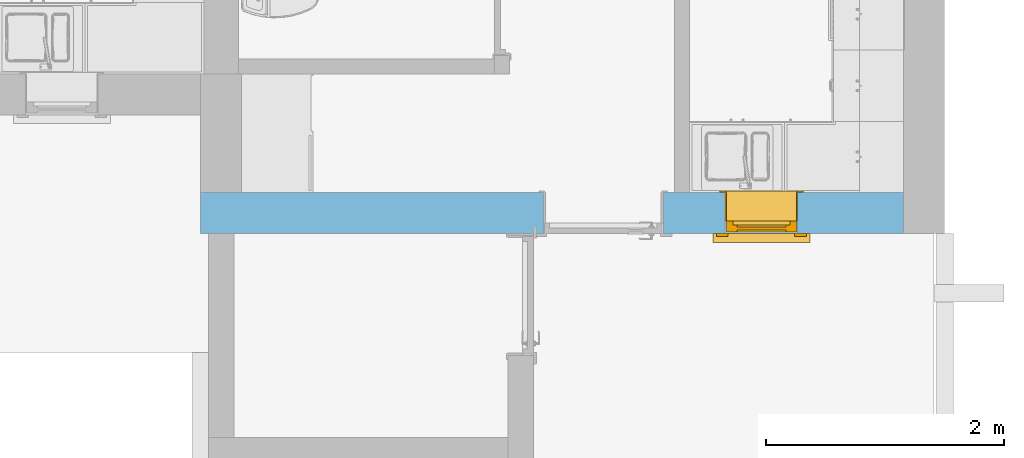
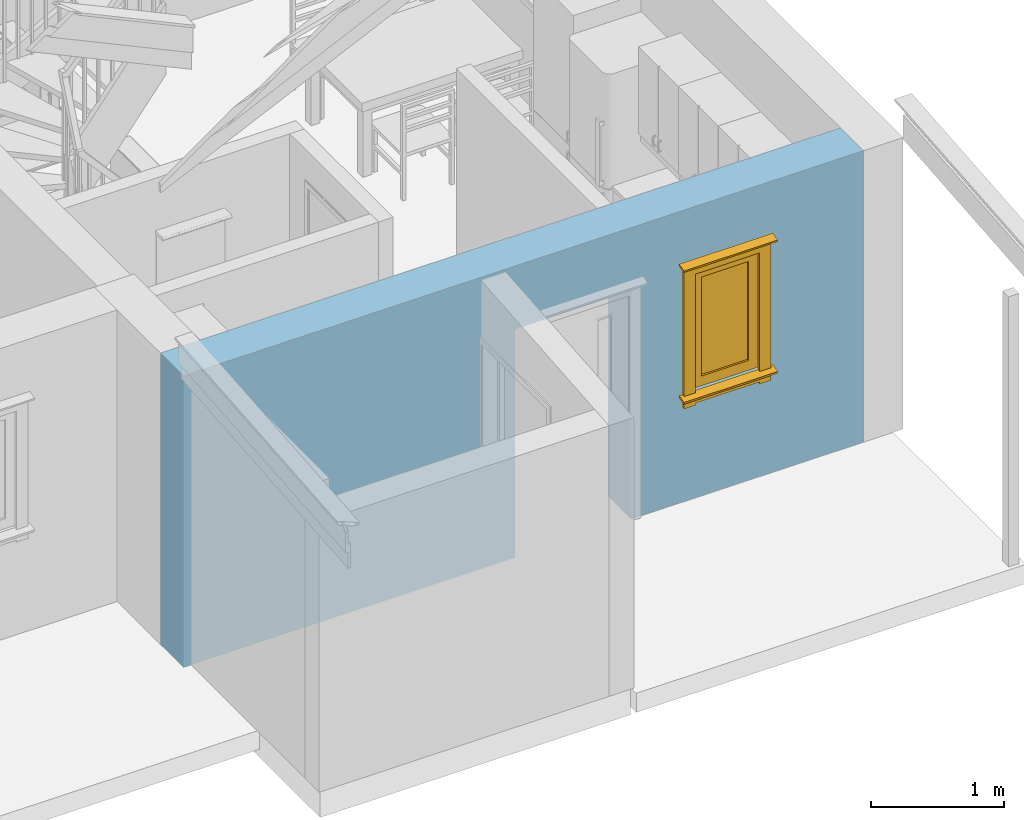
# One storey, part 21 of 65: 1 window, 2 openings, plus 1 element that does not belong to this part.
"""IFC2X3 building model written with IfcOpenShell, lengths in millimetres."""

import ifcopenshell
import ifcopenshell.guid

model = None  # the IFC model being written
_history = None  # IfcOwnerHistory: only IFC2X3 demands one
_inside = {}  # id of a spatial element -> (the spatial element, [elements in it])
_under = {}  # id of a project, library or spatial element -> (it, [spatial elements below it])
_declared = {}  # id of a project -> (the project, [libraries it declares])
_typed = {}  # id of a type object -> (the type object, [elements of that type])
_made_of = {}  # id of a material, layer set ... -> (it, [elements and type objects made of it])


def new_model(schema):
    """Start an empty IFC model of exactly this schema.

    Asked for "IFC4X3", IfcOpenShell would pick the latest addendum, in which some entities
    have other attributes; the version numbers below select the first issue.
    IFC2X3 requires an IfcOwnerHistory on every rooted entity: one is made here for all.
    """
    global model, _history
    if schema == "IFC4X3":
        model = ifcopenshell.file(schema_version=(4, 3, 0, 0))
    else:
        model = ifcopenshell.file(schema=schema)
    _inside.clear()
    _under.clear()
    _declared.clear()
    _typed.clear()
    _made_of.clear()
    _history = None
    if model.schema == "IFC2X3":
        org = make("IfcOrganization", Name="unknown")
        user = make(
            "IfcPersonAndOrganization",
            ThePerson=make("IfcPerson", FamilyName="unknown"),
            TheOrganization=org,
        )
        app = make(
            "IfcApplication",
            ApplicationDeveloper=org,
            Version="unknown",
            ApplicationFullName="unknown",
            ApplicationIdentifier="unknown",
        )
        _history = make(
            "IfcOwnerHistory",
            OwningUser=user,
            OwningApplication=app,
            ChangeAction="ADDED",
            CreationDate=0,
        )
    return model


def make(cls, **values):
    """One entity of the class cls with the attributes given. An attribute that is None is left unset."""
    return model.create_entity(
        cls, **{name: value for name, value in values.items() if value is not None}
    )


def entity(cls, *values):
    """Any entity or typed value of the class cls, its attributes in the order of the schema. None: left unset."""
    e = model.create_entity(cls)
    for i, value in enumerate(values):
        if value is not None:
            e[i] = value
    return e


def rooted(cls, **values):
    """An entity with a GlobalId (a new one), such as an element, a storey or a relation."""
    return make(cls, GlobalId=ifcopenshell.guid.new(), OwnerHistory=_history, **values)


def si_unit(unit_type, name, prefix=None):
    """IfcSIUnit, for example si_unit("LENGTHUNIT", "METRE", prefix="MILLI")."""
    return make("IfcSIUnit", UnitType=unit_type, Prefix=prefix, Name=name)


def converted_unit(unit_type, name, factor, base, dimensions=None, offset=None):
    """IfcConversionBasedUnit, such as the inch: factor (a typed value) times the base unit."""
    return make(
        "IfcConversionBasedUnit"
        if offset is None
        else "IfcConversionBasedUnitWithOffset",
        ConversionOffset=offset,
        Dimensions=None
        if dimensions is None
        else entity("IfcDimensionalExponents", *dimensions),
        UnitType=unit_type,
        Name=name,
        ConversionFactor=make(
            "IfcMeasureWithUnit", ValueComponent=factor, UnitComponent=base
        ),
    )


def assignment(units):
    """IfcUnitAssignment: the units of a project."""
    return None if units is None else make("IfcUnitAssignment", Units=units)


def point(xyz):
    """IfcCartesianPoint."""
    return None if xyz is None else make("IfcCartesianPoint", Coordinates=xyz)


def direction(xyz):
    """IfcDirection."""
    return None if xyz is None else make("IfcDirection", DirectionRatios=xyz)


def frame(location, z_axis=None, x_axis=None):
    """IfcAxis2Placement3D, a coordinate frame: its origin and axes. An axis left out is left unset."""
    return make(
        "IfcAxis2Placement3D",
        Location=point(location),
        Axis=direction(z_axis),
        RefDirection=direction(x_axis),
    )


def frame_2d(location, x_axis=None):
    """IfcAxis2Placement2D, a coordinate frame in the plane: its origin and x axis."""
    return make(
        "IfcAxis2Placement2D", Location=point(location), RefDirection=direction(x_axis)
    )


def origin():
    """The frame at (0, 0, 0) with its axes left unset."""
    return frame((0.0, 0.0, 0.0))


def place(relative_to, where):
    """IfcLocalPlacement: puts the frame where relative to a parent placement (None: the world)."""
    return make(
        "IfcLocalPlacement", PlacementRelTo=relative_to, RelativePlacement=where
    )


def context(
    kind, dimensions, precision=None, world=None, true_north=None, identifier=None
):
    """IfcGeometricRepresentationContext, for example the 3D "Model" context."""
    return make(
        "IfcGeometricRepresentationContext",
        ContextIdentifier=identifier,
        ContextType=kind,
        CoordinateSpaceDimension=dimensions,
        Precision=precision,
        WorldCoordinateSystem=world,
        TrueNorth=true_north,
    )


def subcontext(parent, identifier, kind, view, scale=None):
    """IfcGeometricRepresentationSubContext, for example "Body" below "Model"."""
    return make(
        "IfcGeometricRepresentationSubContext",
        ContextIdentifier=identifier,
        ContextType=kind,
        ParentContext=parent,
        TargetScale=scale,
        TargetView=view,
    )


def project(units=None, contexts=None):
    """IfcProject with its units and contexts."""
    return rooted(
        "IfcProject",
        Name="project",
        RepresentationContexts=contexts,
        UnitsInContext=assignment(units),
    )


def spatial(cls, under=None, at=None, **own):
    """A site, building, storey or space (cls), placed at a placement, below another one or the project."""
    s = rooted(cls, ObjectPlacement=at, **own)
    if under is not None:
        _under.setdefault(under.id(), (under, []))[1].append(s)
    return s


def profile(cls, at=None, kind="AREA", **sizes):
    """A parametric profile (cls). Its sizes go by their IFC names, for example OverallWidth=200.0."""
    return make(cls, ProfileType=kind, Position=at, **sizes)


def rectangle(**sizes):
    """IfcRectangleProfileDef."""
    return profile("IfcRectangleProfileDef", **sizes)


def extrude(swept, where, along, depth):
    """IfcExtrudedAreaSolid: the profile swept, set in the frame where, extruded along a direction by depth."""
    return make(
        "IfcExtrudedAreaSolid",
        SweptArea=swept,
        Position=where,
        ExtrudedDirection=direction(along),
        Depth=depth,
    )


def faces_of(points, faces, orient=None, outer=None):
    """IfcFace entities. A face is a list of loops; a loop is a list of indices into points, from 0.

    orient and outer hold one flag for each loop. By default every Orientation is true, the
    first loop of a face is its IfcFaceOuterBound and the others are IfcFaceBound.
    """
    made = []
    for i, loops in enumerate(faces):
        bounds = []
        for j, loop in enumerate(loops):
            is_outer = j == 0 if outer is None else outer[i][j]
            bounds.append(
                make(
                    "IfcFaceOuterBound" if is_outer else "IfcFaceBound",
                    Bound=make("IfcPolyLoop", Polygon=[points[k] for k in loop]),
                    Orientation=True if orient is None else orient[i][j],
                )
            )
        made.append(make("IfcFace", Bounds=bounds))
    return made


def faceted_brep(points, faces, orient=None, outer=None, voids=None):
    """IfcFacetedBrep: a solid bounded by flat faces; with voids (closed shells), ...WithVoids."""
    shared = [point(p) for p in points]
    hull = make("IfcClosedShell", CfsFaces=faces_of(shared, faces, orient, outer))
    if voids is None:
        return make("IfcFacetedBrep", Outer=hull)
    return make(
        "IfcFacetedBrepWithVoids",
        Outer=hull,
        Voids=[
            make(cls, CfsFaces=faces_of(shared, fs, o, b)) for cls, fs, o, b in voids
        ],
    )


def shape(context_of_items, identifier, shape_type, items):
    """IfcShapeRepresentation: the items that make up one representation, for example the "Body"."""
    return make(
        "IfcShapeRepresentation",
        ContextOfItems=context_of_items,
        RepresentationIdentifier=identifier,
        RepresentationType=shape_type,
        Items=items,
    )


def source(mapping_origin, context_of_items, identifier, shape_type, items):
    """IfcRepresentationMap: a shape defined once, which mapped items show again and again."""
    return make(
        "IfcRepresentationMap",
        MappingOrigin=mapping_origin,
        MappedRepresentation=shape(context_of_items, identifier, shape_type, items),
    )


def transform(
    local_origin,
    x_axis=None,
    y_axis=None,
    z_axis=None,
    scale=None,
    scale2=None,
    scale3=None,
    uniform=True,
):
    """IfcCartesianTransformationOperator3D, or its non-uniform kind. x_axis, y_axis, z_axis: its Axis1, 2, 3."""
    if uniform:
        return make(
            "IfcCartesianTransformationOperator3D",
            Axis1=direction(x_axis),
            Axis2=direction(y_axis),
            LocalOrigin=point(local_origin),
            Scale=scale,
            Axis3=direction(z_axis),
        )
    return make(
        "IfcCartesianTransformationOperator3DnonUniform",
        Axis1=direction(x_axis),
        Axis2=direction(y_axis),
        LocalOrigin=point(local_origin),
        Scale=scale,
        Axis3=direction(z_axis),
        Scale2=scale2,
        Scale3=scale3,
    )


def mapped(mapping_source, mapping_target):
    """IfcMappedItem: shows the shape of a source again, moved by a transform."""
    return make(
        "IfcMappedItem", MappingSource=mapping_source, MappingTarget=mapping_target
    )


def material(Name=None, Category=None):
    """IfcMaterial."""
    return make("IfcMaterial", Name=Name, Category=Category)


def material_list(materials):
    """IfcMaterialList."""
    return make("IfcMaterialList", Materials=materials)


def layer(
    of_material, thickness, ventilated=None, Name=None, Category=None, Priority=None
):
    """IfcMaterialLayer: one layer of a wall or slab, of a material (None: an air gap)."""
    return make(
        "IfcMaterialLayer",
        Material=of_material,
        LayerThickness=thickness,
        IsVentilated=ventilated,
        Name=Name,
        Category=Category,
        Priority=Priority,
    )


def layer_set(layers, Name=None):
    """IfcMaterialLayerSet."""
    return make("IfcMaterialLayerSet", MaterialLayers=layers, LayerSetName=Name)


def layer_usage(for_layer_set, set_direction, sense, offset, extent=None):
    """IfcMaterialLayerSetUsage: how a layer set lies in its element."""
    return make(
        "IfcMaterialLayerSetUsage",
        ForLayerSet=for_layer_set,
        LayerSetDirection=set_direction,
        DirectionSense=sense,
        OffsetFromReferenceLine=offset,
        ReferenceExtent=extent,
    )


def made_of(thing, what):
    """Note that an element or type object is made of a material, layer set ...; save() writes the relation."""
    if what is not None:
        _made_of.setdefault(what.id(), (what, []))[1].append(thing)
    return thing


def type_object(cls, material=None, **own):
    """A type object (cls), such as IfcWallType, which elements share."""
    return made_of(rooted(cls, **own), material)


def type_shapes(of_type, sources):
    """Give a type object the sources (RepresentationMaps) that its elements show as mapped items."""
    of_type.RepresentationMaps = sources


def element(
    cls,
    number,
    at=None,
    inside=None,
    cuts=None,
    type_object=None,
    material=None,
    context=None,
    identifier="Body",
    shape_type=None,
    held_by="IfcProductDefinitionShape",
    body=None,
    shapes=None,
    **own,
):
    """One element of the class cls, such as IfcWall. Its Tag is "e" and its number.

    at: its placement. inside: the storey or other place that contains it. cuts: it is an
    opening in that element (IfcRelVoidsElement). A single representation is given by context,
    identifier, shape_type and body (its items); several are given by shapes. held_by: the class
    of the entity that holds the representations. save() writes the other relations.
    """
    e = rooted(cls, Tag="e%d" % number, ObjectPlacement=at, **own)
    if body is not None:
        shapes = [shape(context, identifier, shape_type, body)]
    if shapes is not None:
        e.Representation = make(held_by, Representations=shapes)
    if inside is not None:
        _inside.setdefault(inside.id(), (inside, []))[1].append(e)
    if cuts is not None:
        rooted(
            "IfcRelVoidsElement", RelatingBuildingElement=cuts, RelatedOpeningElement=e
        )
    if type_object is not None:
        _typed.setdefault(type_object.id(), (type_object, []))[1].append(e)
    return made_of(e, material)


def fill(opening, filler):
    """IfcRelFillsElement: the door or window that sits in an opening."""
    return rooted(
        "IfcRelFillsElement",
        RelatingOpeningElement=opening,
        RelatedBuildingElement=filler,
    )


def aggregate(whole, parts):
    """IfcRelAggregates: a whole, such as a stair, and the parts it consists of."""
    return rooted("IfcRelAggregates", RelatingObject=whole, RelatedObjects=parts)


def save(model, path):
    """Write the relations noted so far, then the file.

    IfcRelAggregates (storeys below a building ...), IfcRelContainedInSpatialStructure (elements
    in a storey), IfcRelDefinesByType, IfcRelAssociatesMaterial and IfcRelDeclares: one each for
    every whole, place, type object, material and project.
    """
    for whole, parts in _under.values():
        aggregate(whole, parts)
    for where, things in _inside.values():
        rooted(
            "IfcRelContainedInSpatialStructure",
            RelatedElements=things,
            RelatingStructure=where,
        )
    for kind, things in _typed.values():
        rooted("IfcRelDefinesByType", RelatedObjects=things, RelatingType=kind)
    for what, things in _made_of.values():
        rooted("IfcRelAssociatesMaterial", RelatedObjects=things, RelatingMaterial=what)
    for by, libraries in _declared.values():
        rooted("IfcRelDeclares", RelatingContext=by, RelatedDefinitions=libraries)
    model.write(path)


model = new_model("IFC2X3")

# Units and contexts
model_context = context("Model", 3, precision=0.01, world=origin(), true_north=direction((0.0, 1.0)))
body_context = subcontext(model_context, "Body", "Model", "MODEL_VIEW")
ifc_project = project(units=[si_unit("LENGTHUNIT", "METRE", prefix="MILLI"), si_unit("AREAUNIT", "SQUARE_METRE"), si_unit("VOLUMEUNIT", "CUBIC_METRE"), converted_unit("PLANEANGLEUNIT", "DEGREE", entity("IfcPlaneAngleMeasure", 0.017453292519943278), si_unit("PLANEANGLEUNIT", "RADIAN"), dimensions=[0, 0, 0, 0, 0, 0, 0])], contexts=[model_context])

# Site, building, storey
site_placement = place(None, origin())
site = spatial("IfcSite", under=ifc_project, at=site_placement, Name="Default", CompositionType="ELEMENT")
building_placement = place(site_placement, origin())
building = spatial("IfcBuilding", under=site, at=building_placement, CompositionType="ELEMENT")
storey_placement = place(building_placement, origin())
storey = spatial("IfcBuildingStorey", under=building, at=storey_placement, Name="Et. 1", CompositionType="ELEMENT", Elevation=0.0)

# Wall, openings, window
ifc_material_1 = material(Name="Vegg - Stående Kledning_smal - HVIT")
ifc_layer_1 = layer(ifc_material_1, 19.0)
ifc_material_2 = material(Name="Vegg - Utlekting")
ifc_layer_2 = layer(ifc_material_2, 36.0)
ifc_layer_3 = layer(ifc_material_2, 23.0)
ifc_material_3 = material(Name="Vegg - Gips - GU")
ifc_layer_4 = layer(ifc_material_3, 9.0)
ifc_material_4 = material(Name="Vegg - Stender - Isolert")
ifc_layer_5 = layer(ifc_material_4, 198.0)
ifc_material_5 = material(Name="Vegg - Påforing - Isolert")
ifc_layer_6 = layer(ifc_material_5, 48.0)
ifc_material_6 = material(Name="Vegg - Gips - Hvit")
ifc_layer_7 = layer(ifc_material_6, 13.000000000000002)
ifc_layer_set = layer_set([ifc_layer_1, ifc_layer_2, ifc_layer_3, ifc_layer_4, ifc_layer_5, ifc_layer_6, ifc_layer_7], Name="Basic Wall:23-Kv(sm)TIG-19_36_23_9_198_48_13")
ifc_layer_usage = layer_usage(ifc_layer_set, "AXIS2", "NEGATIVE", 173.0)
wall_type = type_object("IfcWallType", Name="Basic Wall:23-Kv(sm)TIG-19_36_23_9_198_48_13", PredefinedType="STANDARD", material=ifc_layer_set)
wall_placement = place(storey_placement, frame((33919.00958675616, 8581.180957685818, 0.0), z_axis=(0.0, 0.0, 1.0), x_axis=(-1.0, 0.0, 0.0)))
wall = element("IfcWallStandardCase", 1, at=wall_placement, inside=storey, type_object=wall_type, material=ifc_layer_usage, Name="Basic Wall:23-Kv(sm)TIG-19_36_23_9_198_48_13", context=body_context, shape_type="SweptSolid", body=[
    extrude(rectangle(XDim=5913.999999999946, YDim=346.0000000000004, at=frame_2d((2956.999999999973, -6.821210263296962e-13), x_axis=(1.0, 0.0))), origin(), (0.0, 0.0, 1.0), 2681.0),
])
opening_1_placement = place(wall_placement, frame((2020.4999999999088, -173.0, 0.0)))
element("IfcOpeningElement", 2, at=opening_1_placement, cuts=wall, Name="YD 1 Glassfelt omramming:10x21M:1", ObjectType="Opening", context=body_context, shape_type="SweptSolid", body=[
    extrude(rectangle(XDim=1010.0000000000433, YDim=2100.000000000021, at=frame_2d((1050.0000000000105, 505.00000000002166), x_axis=(0.0, 1.0))), frame((0.0, 0.0, 0.0), z_axis=(0.0, 1.0, 0.0), x_axis=(0.0, 0.0, 1.0)), (0.0, 0.0, 1.0), 346.0),
])
opening_2_placement = place(wall_placement, frame((890.0, -173.0, 990.0)))
opening_2 = element("IfcOpeningElement", 3, at=opening_2_placement, cuts=wall, Name="Hel Rute Åpningsvindu m omramming:6x11M:1", ObjectType="Opening", context=body_context, shape_type="SweptSolid", body=[
    extrude(rectangle(XDim=609.9999999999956, YDim=1109.9999999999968, at=frame_2d((554.9999999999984, 304.9999999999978), x_axis=(0.0, -1.0))), frame((0.0, 0.0, 0.0), z_axis=(0.0, 1.0, 0.0), x_axis=(0.0, 0.0, 1.0)), (0.0, 0.0, 1.0), 346.0),
])
ifc_material_7 = material(Name="Omramming")
ifc_material_8 = material(Name="Karm")
ifc_material_9 = material(Name="Glass - Klart")
ifc_material_list = material_list([ifc_material_7, ifc_material_8, ifc_material_9])
window_style = type_object("IfcWindowStyle", Name="Hel Rute Åpningsvindu m omramming:6x11M", ConstructionType="NOTDEFINED", OperationType="NOTDEFINED", ParameterTakesPrecedence=False, Sizeable=False, material=ifc_material_list)
shared_shape = source(origin(), body_context, "Body", "Brep", [
    faceted_brep([(-73.0, 368.0, 1189.1537012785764), (25.0, 368.0, 1189.1537012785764), (25.0, 368.0, -5.894882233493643), (-73.0, 368.0, -5.894882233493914), (585.0, 346.0, -120.0), (683.0, 346.0, -120.0), (683.0, 346.0, -22.776075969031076), (713.0, 346.0, -22.77607596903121), (713.0, 346.0, 0.0), (683.0, 346.0, 0.0), (683.0, 346.0, 1189.1537012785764), (585.0, 346.0, 1189.1537012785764), (585.0, 346.0, 0.0), (25.0, 346.0, 0.0), (25.0, 346.0, 1189.1537012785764), (-73.0, 346.0, 1189.1537012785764), (-73.0, 346.0, 0.0), (-103.0, 346.0, 0.0), (-103.0, 346.0, -22.776075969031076), (-73.0, 346.0, -22.776075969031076), (-73.0, 346.0, -120.0), (25.0, 346.0, -120.0), (25.0, 346.0, -22.776075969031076), (585.0, 346.0, -22.776075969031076), (683.0, 368.0, 1189.1537012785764), (585.0, 368.0, 1189.1537012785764), (683.0, 368.0, -5.894882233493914), (585.0, 368.0, -120.0), (683.0, 368.0, -120.0), (585.0, 368.0, -5.894882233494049), (-73.0, 368.0, -120.0), (25.0, 368.0, -120.0), (-103.0, 413.6148078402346, -40.89340912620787), (-103.0, 419.3088268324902, -19.64304094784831), (713.0, 413.6148078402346, -40.89340912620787), (713.0, 419.3088268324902, -19.64304094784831), (683.0, 368.0, -28.67095820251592), (585.0, 368.0, -28.670958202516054), (25.0, 368.0, -28.67095820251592), (-73.0, 368.0, -28.670958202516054)], [[[0, 1, 2, 3]], [[4, 5, 6, 7, 8, 9, 10, 11, 12, 13, 14, 15, 16, 17, 18, 19, 20, 21, 22, 23]], [[24, 25, 11, 10]], [[24, 10, 9, 26]], [[27, 28, 5, 4]], [[11, 25, 29, 12]], [[1, 0, 15, 14]], [[1, 14, 13, 2]], [[30, 31, 21, 20]], [[15, 0, 3, 16]], [[32, 18, 17, 33]], [[34, 35, 8, 7]], [[18, 32, 34, 7, 6, 36, 37, 23, 22, 38, 39, 19]], [[33, 17, 16, 3, 2, 13, 12, 29, 26, 9, 8, 35]], [[32, 33, 35, 34]], [[30, 20, 19, 39]], [[21, 31, 38, 22]], [[27, 4, 23, 37]], [[5, 28, 36, 6]], [[31, 30, 39, 38]], [[25, 24, 26, 29]], [[28, 27, 37, 36]]]),
    faceted_brep([(713.0, 413.52687511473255, 1170.8011105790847), (713.0, 418.4444369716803, 1189.1537012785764), (713.0, 346.0, 1208.5651296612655), (713.0, 346.0, 1188.8948822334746), (-103.0, 413.52687511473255, 1170.8011105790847), (-103.0, 346.0, 1188.8948822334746), (-103.0, 346.0, 1208.5651296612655), (-103.0, 418.4444369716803, 1189.1537012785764)], [[[0, 1, 2, 3]], [[4, 5, 6, 7]], [[1, 0, 4, 7]], [[2, 1, 7, 6]], [[3, 2, 6, 5]], [[0, 3, 5, 4]]]),
    faceted_brep([(25.0, 368.0, 1183.0), (585.0, 368.0, 1183.0), (585.0, 368.0, 1085.0), (25.0, 368.0, 1085.0), (25.0, 346.0, 1183.0), (25.0, 346.0, 1085.0), (585.0, 346.0, 1085.0), (585.0, 346.0, 1183.0)], [[[0, 1, 2, 3]], [[4, 5, 6, 7]], [[1, 0, 4, 7]], [[2, 1, 7, 6]], [[3, 2, 6, 5]], [[0, 3, 5, 4]]]),
    faceted_brep([(585.0, 368.0, -30.0), (25.0, 368.0, -30.0), (25.0, 346.0, -30.0), (585.0, 346.0, -30.0), (585.0, 368.0, -102.0), (585.0, 346.0, -102.0), (25.0, 368.0, -102.0), (25.0, 346.0, -102.0)], [[[0, 1, 2, 3]], [[4, 0, 3, 5]], [[6, 4, 5, 7]], [[1, 6, 7, 2]], [[2, 7, 5, 3]], [[1, 0, 4, 6]]]),
    faceted_brep([(100.0, 271.0, 100.0), (100.0, 331.0, 100.0), (100.0, 331.0, 1010.0), (100.0, 271.0, 1010.0), (50.0, 331.0, 50.0), (50.0, 271.0, 50.0), (50.0, 271.0, 1060.0), (50.0, 331.0, 1060.0), (510.0, 331.0, 1010.0), (510.0, 271.0, 1010.0), (560.0, 271.0, 1060.0), (560.0, 331.0, 1060.0), (510.0, 331.0, 100.0), (510.0, 271.0, 100.0), (560.0, 271.0, 50.0), (560.0, 331.0, 50.0)], [[[0, 1, 2, 3]], [[4, 5, 6, 7]], [[3, 2, 8, 9]], [[7, 6, 10, 11]], [[9, 8, 12, 13]], [[11, 10, 14, 15]], [[13, 12, 1, 0]], [[3, 9, 13, 0], [5, 14, 10, 6]], [[15, 14, 5, 4]], [[7, 11, 15, 4], [1, 12, 8, 2]]], outer=[[True], [True], [True], [True], [True], [True], [True], [False, True], [True], [True, False]]),
    faceted_brep([(510.0, 288.4999999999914, 100.0), (510.0, 288.49999999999, 1010.0), (100.0, 288.49999999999, 1010.0), (100.0, 288.4999999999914, 100.0), (510.0, 313.4999999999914, 100.0), (100.0, 313.4999999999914, 100.0), (100.0, 313.49999999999, 1010.0), (510.0, 313.49999999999, 1010.0)], [[[0, 1, 2, 3]], [[4, 5, 6, 7]], [[1, 0, 4, 7]], [[2, 1, 7, 6]], [[3, 2, 6, 5]], [[0, 3, 5, 4]]]),
    faceted_brep([(600.0, 239.0, 10.0), (600.0, 331.0, 10.0), (600.0, 331.0, 1100.0), (600.0, 239.0, 1100.0), (560.0, 331.0, 1060.0), (560.0, 331.0, 50.0), (560.0, 271.0, 50.0), (560.0, 271.0, 1060.0), (10.0, 331.0, 1100.0), (10.0, 239.0, 1100.0), (50.0, 331.0, 1060.0), (50.0, 271.0, 1060.0), (10.0, 331.0, 10.0), (10.0, 239.0, 10.0), (50.0, 331.0, 50.0), (50.0, 271.0, 50.0), (65.0, 239.0, 65.0), (65.0, 239.0, 1045.0), (545.0, 239.0, 1045.0), (545.0, 239.0, 65.0), (65.0, 271.0, 65.0), (65.0, 271.0, 1045.0), (545.0, 271.0, 1045.0), (545.0, 271.0, 65.0)], [[[0, 1, 2, 3]], [[4, 5, 6, 7]], [[3, 2, 8, 9]], [[10, 4, 7, 11]], [[9, 8, 12, 13]], [[14, 10, 11, 15]], [[2, 1, 12, 8], [5, 4, 10, 14]], [[1, 0, 13, 12]], [[0, 3, 9, 13], [16, 17, 18, 19]], [[5, 14, 15, 6]], [[16, 20, 21, 17]], [[17, 21, 22, 18]], [[18, 22, 23, 19]], [[20, 16, 19, 23]], [[7, 6, 15, 11], [21, 20, 23, 22]]]),
    faceted_brep([(610.0, 239.0, 1110.0), (610.0, 239.0, 0.0), (0.0, 239.0, 0.0), (0.0, 239.0, 1110.0), (10.0, 239.0, 10.0), (600.0, 239.0, 10.0), (600.0, 239.0, 1100.0), (10.0, 239.0, 1100.0), (610.0, 0.0, 1110.0), (0.0, 0.0, 1110.0), (0.0, 0.0, 0.0), (610.0, 0.0, 0.0), (10.0, 0.0, 10.0), (10.0, 0.0, 1100.0), (600.0, 0.0, 1100.0), (600.0, 0.0, 10.0)], [[[0, 1, 2, 3], [4, 5, 6, 7]], [[8, 9, 10, 11], [12, 13, 14, 15]], [[1, 0, 8, 11]], [[2, 1, 11, 10]], [[3, 2, 10, 9]], [[0, 3, 9, 8]], [[5, 4, 12, 15]], [[6, 5, 15, 14]], [[7, 6, 14, 13]], [[4, 7, 13, 12]]]),
    faceted_brep([(5.0, -12.0, 1105.0), (5.0, 0.0, 1105.0), (605.0, 0.0, 1105.0), (605.0, -12.0, 1105.0), (-47.0, 0.0, 1157.0), (-47.0, -12.0, 1157.0), (657.0, -12.0, 1157.0), (657.0, 0.0, 1157.0), (605.0, 0.0, 5.0), (605.0, -12.0, 5.0), (657.0, -12.0, -47.0), (657.0, 0.0, -47.0), (5.0, 0.0, 5.0), (5.0, -12.0, 5.0), (-47.0, -12.0, -47.0), (-47.0, 0.0, -47.0)], [[[0, 1, 2, 3]], [[4, 5, 6, 7]], [[3, 2, 8, 9]], [[7, 6, 10, 11]], [[9, 8, 12, 13]], [[11, 10, 14, 15]], [[7, 11, 15, 4], [1, 12, 8, 2]], [[13, 12, 1, 0]], [[3, 9, 13, 0], [5, 14, 10, 6]], [[15, 14, 5, 4]]], outer=[[True], [True], [True], [True], [True], [True], [True, False], [True], [False, True], [True]]),
])
type_shapes(window_style, [shared_shape])
window_placement = place(opening_2_placement, origin())
window = element("IfcWindow", 4, at=window_placement, inside=storey, type_object=window_style, material=ifc_material_list, Name="Hel Rute Åpningsvindu m omramming:6x11M", OverallHeight=1109.9999999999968, OverallWidth=609.9999999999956, context=body_context, shape_type="MappedRepresentation", body=[
    mapped(shared_shape, transform((0.0, 0.0, 0.0), scale=1.0)),
])
fill(opening_2, window)

save(model, "model.ifc")
